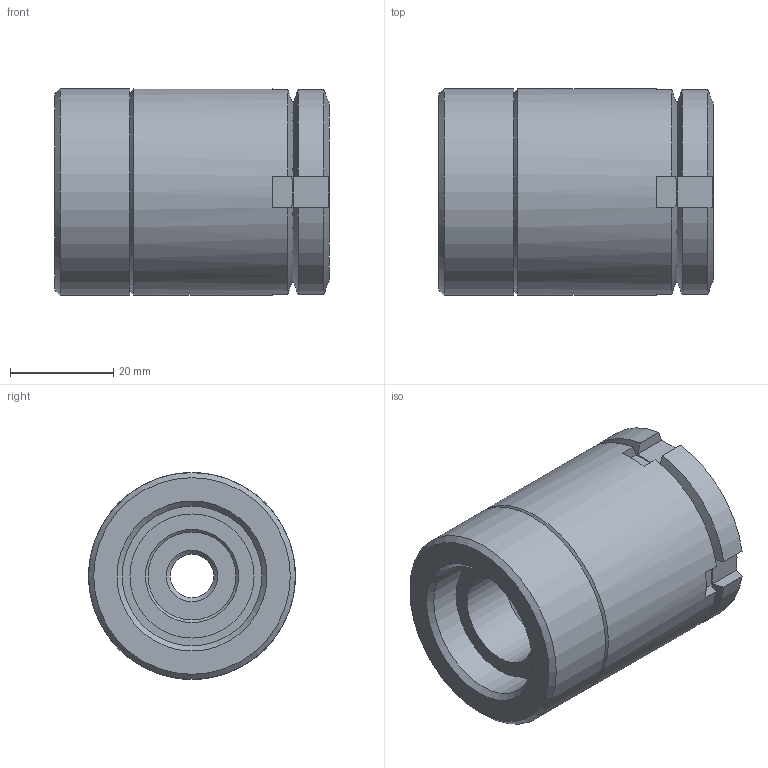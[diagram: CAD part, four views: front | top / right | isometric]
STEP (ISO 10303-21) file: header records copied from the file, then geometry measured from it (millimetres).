
FILE_DESCRIPTION( ( 'STEP AP203' ), '1' );
FILE_NAME( 'C:/Temp/Ganter_Step_05_03_2020/data/3_2/gn360/gn360_st/Levelling set GN 360-40-M10-69-A-ST (0-0).stp', '2020-03-13T05:41:44', ( 'License CC BY-ND 4.0' ), ( 'CADENAS' ), ' ', 'PARTsolutions', ' ' );
FILE_SCHEMA( ( 'CONFIG_CONTROL_DESIGN' ) );
Length unit declared in the file: millimetre
Products named in the file (4): Levelling set GN 360-40-M10-69-A-ST (0-0); _Levelling set GN 360-40-M10-69-A-ST (0-0)-1; _Levelling set GN 360-40-M10-69-A-ST (0-0)-2; _Levelling set GN 360-40-M10-69-A-ST (0-0)-3
Assembly tree (3 placements, depth 2):
  Levelling set GN 360-40-M10-69-A-ST (0-0)
    _Levelling set GN 360-40-M10-69-A-ST (0-0)-1
    _Levelling set GN 360-40-M10-69-A-ST (0-0)-2
    _Levelling set GN 360-40-M10-69-A-ST (0-0)-3
Bounding box: 53 x 40 x 40 mm (x, y, z)
Volume: 52836.3 mm3; surface area: 21375.8 mm2
Topology: 3 solids, 3 shells, 72 faces, 167 edges, 107 vertices
Faces by surface type: plane 40, cylinder 17, cone 12, sphere 2, torus 1
Full cylindrical faces by diameter (mm): 8.376 x1, 17 x1, 18 x1, 20 x1, 23.5 x1, 24 x1, 26 x1, 26.376 x1, 27 x1, 28 x1, 28.5 x1, 40 x2
Entity records: 2101 total; most frequent: CARTESIAN_POINT 480, DIRECTION 304, ORIENTED_EDGE 268, EDGE_CURVE 134, AXIS2_PLACEMENT_3D 130, EDGE_LOOP 112, VERTEX_POINT 102, FACE_OUTER_BOUND 88
